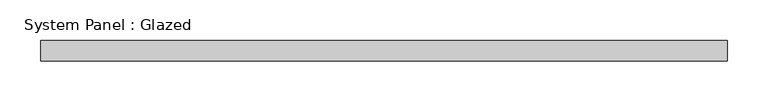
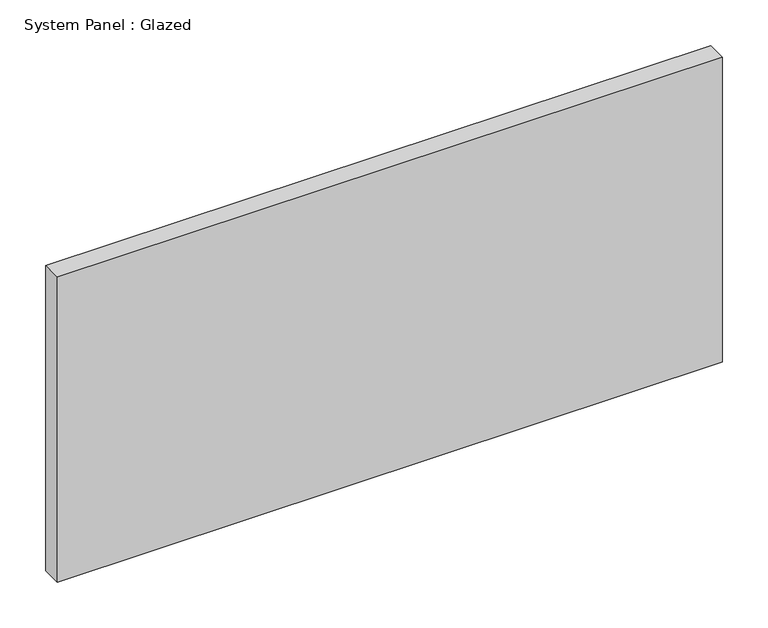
"""IFC4 building model written with IfcOpenShell, lengths in millimetres: plate geometry, System Panel : Glazed."""

from ifc_helpers import new_model, si_unit, origin, origin_with_axes, place, context, project, spatial, polyline, outline, extrude, source, transform, mapped, element, save


def system_panel_glazed_4b0897f9(model_context):
    return source(origin(), model_context, "Body", "SweptSolid", [
        extrude(outline(polyline([(419.7, 24.5), (-419.7, 24.5), (-419.7, 49.5), (419.7, 49.5), (419.7, 24.5)])), origin_with_axes(), (0.0, 0.0, 1.0), 407.2),
    ])


if __name__ == "__main__":
    model = new_model("IFC4")
    model_context = context("Model", 3, world=origin())
    ifc_project = project(units=[si_unit("LENGTHUNIT", "METRE", prefix="MILLI")], contexts=[model_context])
    site = spatial("IfcSite", under=ifc_project)
    building = spatial("IfcBuilding", under=site)
    placement = place(None, origin())
    system_panel_glazed_shape = system_panel_glazed_4b0897f9(model_context)
    element("IfcPlate", 1, ObjectType="System Panel : Glazed", at=placement, inside=building, context=model_context, shape_type="MappedRepresentation", body=[
        mapped(system_panel_glazed_shape, transform((0.0, 0.0, 0.0), x_axis=(1.0, 0.0, 0.0), y_axis=(0.0, 1.0, 0.0), z_axis=(0.0, 0.0, 1.0))),
    ])
    save(model, "model.ifc")
